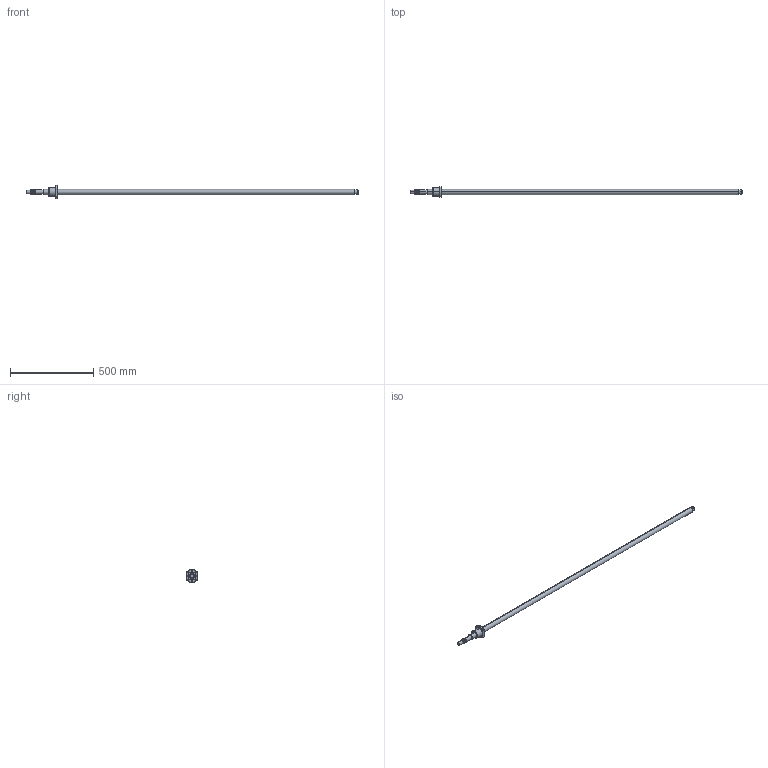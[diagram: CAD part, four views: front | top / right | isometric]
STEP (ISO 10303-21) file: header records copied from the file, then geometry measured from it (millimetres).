
FILE_DESCRIPTION (( 'STEP AP214' ), '1' );
FILE_NAME ('7.3012 STUNUR3205-DFC7-2000mm.STEP', '2026-03-10T08:19:53', ( '' ), ( '' ), 'SwSTEP 2.0', 'SolidWorks 2025', '' );
FILE_SCHEMA (( 'AUTOMOTIVE_DESIGN' ));
Length unit declared in the file: millimetre
Products named in the file (3): 7.3108 STNUR3205T4D; 7.3012 STUNUR3205-DFC7-2000mm; 7.3037 TCR3205-FC7
Assembly tree (2 placements, depth 2):
  7.3012 STUNUR3205-DFC7-2000mm
    7.3037 TCR3205-FC7
    7.3108 STNUR3205T4D
Bounding box: 2000 x 62 x 79.87 mm (x, y, z)
Volume: 1649304 mm3; surface area: 225504 mm2
Topology: 3 solids, 3 shells, 164 faces, 428 edges, 281 vertices
Faces by surface type: cylinder 82, plane 36, bspline 29, cone 9, torus 8
Entity records: 16150 total; most frequent: CARTESIAN_POINT 11554, ORIENTED_EDGE 856, DIRECTION 658, EDGE_CURVE 428, VERTEX_POINT 281, AXIS2_PLACEMENT_3D 241, EDGE_LOOP 191, VECTOR 176
